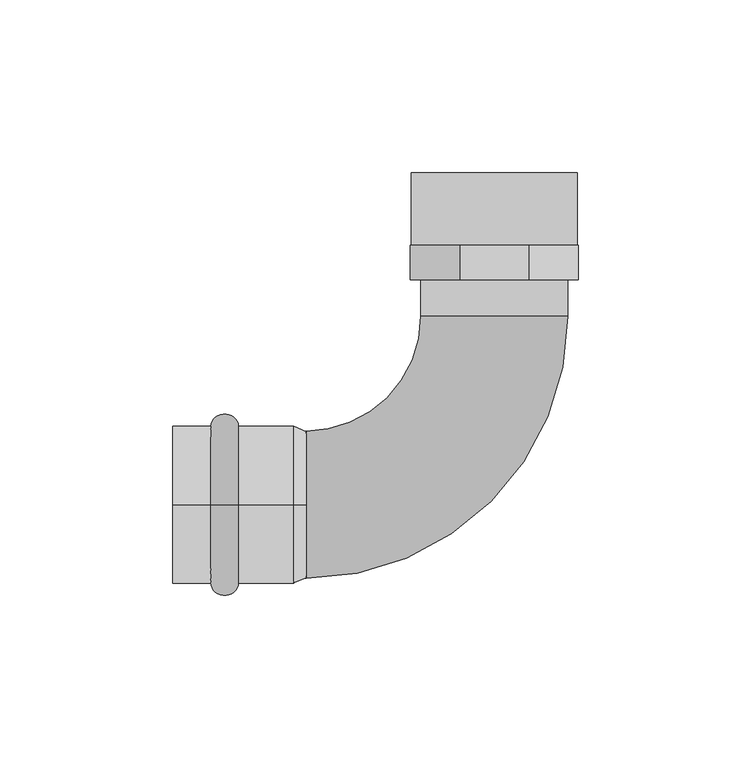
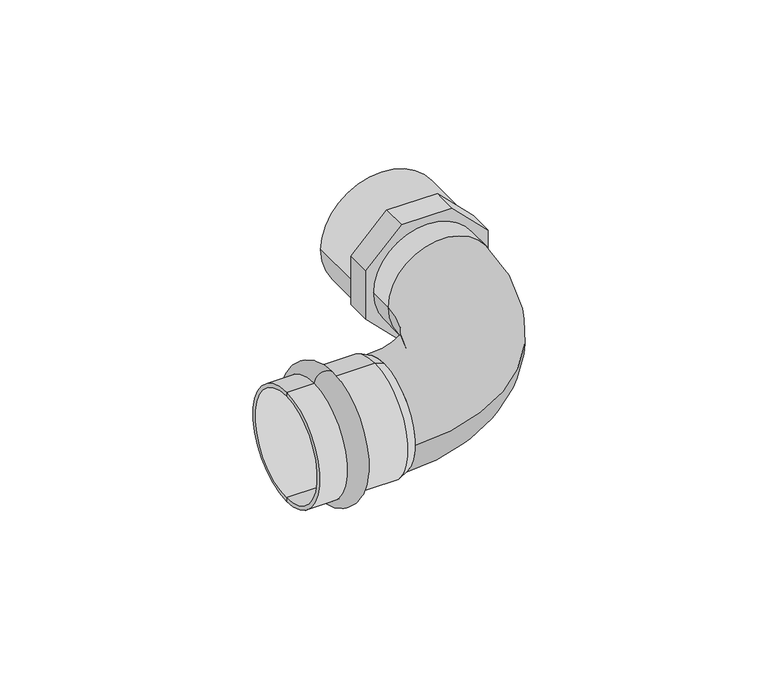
"""IFC4 building model written with IfcOpenShell, lengths in millimetres: pipe fitting geometry."""

from ifc_helpers import new_model, si_unit, point, frame, frame_2d, origin, place, context, project, spatial, polyline, circle_curve, ellipse_curve, trimmed, segment, composite_curve, outline, extrude, source, transform, mapped, element, save
from ifc_brep_helpers import plane_surface, cylinder_surface, revolved_surface, advanced_brep


def pipe_fitting_0c11c471(model_context):
    return source(origin(), model_context, "Body", "SolidModel", [
        advanced_brep(
        [(-24.0, 0.0, 22.75), (-24.0, 0.0, -22.75), (-16.0, 0.0, -22.75), (-16.0, 0.0, 22.75)],
        [
            (0, 1, circle_curve(frame((-24.0, 0.0, 0.0), z_axis=(-1.0, 0.0, 0.0), x_axis=(0.0, 0.0, -1.0)), 22.75)),
            (1, 2),
            (2, 3, circle_curve(frame((-16.0, 0.0, 0.0), z_axis=(1.0, 0.0, 0.0), x_axis=(0.0, 0.0, -1.0)), 22.75)),
            (3, 0),
            (1, 0, circle_curve(frame((-24.0, 0.0, 0.0), z_axis=(-1.0, 0.0, 0.0), x_axis=(0.0, 0.0, -1.0)), 22.75)),
            (3, 2, circle_curve(frame((-16.0, 0.0, 0.0), z_axis=(1.0, 0.0, 0.0), x_axis=(0.0, 0.0, -1.0)), 22.75)),
            (2, 1, ellipse_curve(frame((-20.0, 0.0, -22.75), z_axis=(0.0, 1.0, 0.0), x_axis=(-1.0, 0.0, 0.0)), 4.0, 3.6)),
            (0, 3, ellipse_curve(frame((-20.0, 0.0, 22.75), z_axis=(0.0, 1.0, 0.0), x_axis=(-1.0, 0.0, 0.0)), 4.0, 3.6)),
        ],
        [
            revolved_surface(polyline([(-16.0, 0.0, -22.75), (-24.0, 0.0, -22.75)]), (4.0, 0.0, 0.0), (1.0, 0.0, 0.0)),
            revolved_surface(trimmed(ellipse_curve(frame((-20.0, 0.0, -22.75), z_axis=(0.0, -1.0, 0.0), x_axis=(-1.0, 0.0, 0.0)), 4.0, 3.6), [point((-24.0, 0.0, -22.75))], [point((-16.0, 0.0, -22.75))], True, "CARTESIAN"), (4.0, 0.0, 0.0), (1.0, 0.0, 0.0)),
        ],
        [
            (0, [[1, 2, 3, 4]]),
            (0, [[5, -4, 6, -2]]),
            (1, [[-3, 7, -1, 8]]),
            (1, [[-6, -8, -5, -7]]),
        ],
    ),
        advanced_brep(
        [(3.5337785, 0.0, 21.25), (3.5337785, 0.0, -21.25), (0.0, 0.0, -22.75), (0.0, 0.0, 22.75), (-35.0, 0.0, 21.25), (-35.0, 0.0, -21.25), (-35.0, 0.0, 22.75), (-35.0, 0.0, -22.75)],
        [
            (0, 1, circle_curve(frame((3.5337785, 0.0, 0.0), z_axis=(-1.0, 0.0, 0.0), x_axis=(0.0, 0.0, -1.0)), 21.25)),
            (1, 2),
            (2, 3, circle_curve(frame((0.0, 0.0, 0.0), z_axis=(1.0, 0.0, 0.0), x_axis=(0.0, 0.0, -1.0)), 22.75)),
            (3, 0),
            (1, 0, circle_curve(frame((3.5337785, 0.0, 0.0), z_axis=(-1.0, 0.0, 0.0), x_axis=(0.0, 0.0, -1.0)), 21.25)),
            (3, 2, circle_curve(frame((0.0, 0.0, 0.0), z_axis=(1.0, 0.0, 0.0), x_axis=(0.0, 0.0, -1.0)), 22.75)),
            (4, 5, circle_curve(frame((-35.0, 0.0, 0.0), z_axis=(-1.0, 0.0, 0.0), x_axis=(0.0, 0.0, -1.0)), 21.25)),
            (5, 1),
            (0, 4),
            (5, 4, circle_curve(frame((-35.0, 0.0, 0.0), z_axis=(-1.0, 0.0, 0.0), x_axis=(0.0, 0.0, -1.0)), 21.25)),
            (6, 7, circle_curve(frame((-35.0, 0.0, 0.0), z_axis=(-1.0, 0.0, 0.0), x_axis=(0.0, 0.0, -1.0)), 22.75)),
            (7, 5),
            (4, 6),
            (7, 6, circle_curve(frame((-35.0, 0.0, 0.0), z_axis=(-1.0, 0.0, 0.0), x_axis=(0.0, 0.0, -1.0)), 22.75)),
            (2, 7),
            (6, 3),
        ],
        [
            revolved_surface(polyline([(0.0, 0.0, -22.75), (3.5337785, 0.0, -21.25)]), (4.0, 0.0, 0.0), (1.0, 0.0, 0.0)),
            revolved_surface(polyline([(3.5337785, 0.0, -21.25), (-35.0, 0.0, -21.25)]), (4.0, 0.0, 0.0), (1.0, 0.0, 0.0)),
            plane_surface(frame((-35.0, 0.0, 0.0), z_axis=(-1.0, 0.0, 0.0), x_axis=(0.0, 0.0, -1.0))),
            cylinder_surface(frame((4.0, 0.0, 0.0), z_axis=(1.0, 0.0, 0.0), x_axis=(0.0, 0.0, -1.0)), 22.75),
        ],
        [
            (0, [[1, 2, 3, 4]]),
            (0, [[5, -4, 6, -2]]),
            (1, [[7, 8, -1, 9]]),
            (1, [[10, -9, -5, -8]]),
            (2, [[11, 12, -7, 13]]),
            (2, [[14, -13, -10, -12]]),
            (3, [[-3, 15, -11, 16]]),
            (3, [[-6, -16, -14, -15]]),
        ],
    ),
        extrude(outline(polyline([(10.0446789, 82.25), (24.25, 68.0446789), (24.25, 47.9553211), (10.0446789, 33.75), (-10.0446789, 33.75), (-24.25, 47.9553211), (-24.25, 68.0446789), (-10.0446789, 82.25), (10.0446789, 82.25)]), holes=[polyline([(-16.25, 51.2690296), (-6.7309704, 41.75), (6.7309704, 41.75), (16.25, 51.2690296), (16.25, 64.7309704), (6.7309704, 74.25), (-6.7309704, 74.25), (-16.25, 64.7309704), (-16.25, 51.2690296)])]), frame((0.0, 65.0, 0.0), z_axis=(0.0, 1.0, 0.0), x_axis=(0.0, 0.0, 1.0)), (0.0, 0.0, 1.0), 10.0),
        extrude(outline(composite_curve([segment(trimmed(circle_curve(frame_2d((0.0, 58.0)), 24.0), [point((0.0, 34.0))], [point((0.0, 82.0))], False, "CARTESIAN"), True, "CONTINUOUS"), segment(trimmed(circle_curve(frame_2d((0.0, 58.0)), 24.0), [point((0.0, 82.0))], [point((0.0, 34.0))], False, "CARTESIAN"), True, "CONTINUOUS")], self_intersect=False)), frame((0.0, 75.0, 0.0), z_axis=(0.0, 1.0, 0.0), x_axis=(0.0, 0.0, 1.0)), (0.0, 0.0, 1.0), 21.0),
        advanced_brep(
        [(0.0, -21.25, 0.0), (0.0, 21.25, 0.0), (3.5337785, -21.25, 0.0), (3.5337785, 21.25, 0.0), (36.75, 54.4662215, 0.0), (79.25, 54.4662215, 0.0), (79.25, 65.0, 0.0), (36.75, 65.0, 0.0)],
        [
            (0, 1, circle_curve(frame((0.0, 0.0, 0.0), z_axis=(-1.0, 0.0, 0.0), x_axis=(0.0, 1.0, 0.0)), 21.25)),
            (1, 0, circle_curve(frame((0.0, 0.0, 0.0), z_axis=(-1.0, 0.0, 0.0), x_axis=(0.0, 1.0, 0.0)), 21.25)),
            (0, 2),
            (2, 3, circle_curve(frame((3.5337785, 0.0, 0.0), z_axis=(-1.0, 0.0, 0.0), x_axis=(0.0, 1.0, 0.0)), 21.25)),
            (3, 1),
            (3, 2, circle_curve(frame((3.5337785, 0.0, 0.0), z_axis=(-1.0, 0.0, 0.0), x_axis=(0.0, 1.0, 0.0)), 21.25)),
            (4, 3, circle_curve(frame((3.5337785, 54.4662215, 0.0), z_axis=(0.0, 0.0, -1.0), x_axis=(0.0, -1.0, 0.0)), 33.2162215)),
            (2, 5, circle_curve(frame((3.5337785, 54.4662215, 0.0), z_axis=(0.0, 0.0, 1.0), x_axis=(0.0, -1.0, 0.0)), 75.7162215)),
            (5, 4, circle_curve(frame((58.0, 54.4662215, 0.0), z_axis=(0.0, -1.0, 0.0), x_axis=(-1.0, 0.0, 0.0)), 21.25)),
            (4, 5, circle_curve(frame((58.0, 54.4662215, 0.0), z_axis=(0.0, -1.0, 0.0), x_axis=(-1.0, 0.0, 0.0)), 21.25)),
            (6, 7, circle_curve(frame((58.0, 65.0, 0.0), z_axis=(0.0, 1.0, 0.0), x_axis=(-1.0, 0.0, 0.0)), 21.25)),
            (7, 6, circle_curve(frame((58.0, 65.0, 0.0), z_axis=(0.0, 1.0, 0.0), x_axis=(-1.0, 0.0, 0.0)), 21.25)),
            (5, 6),
            (7, 4),
        ],
        [
            plane_surface(frame((0.0, 0.0, 0.0), z_axis=(-1.0, 0.0, 0.0), x_axis=(0.0, 0.0, 1.0))),
            cylinder_surface(frame((0.0, 0.0, 0.0), z_axis=(-1.0, 0.0, 0.0), x_axis=(0.0, 1.0, 0.0)), 21.25),
            revolved_surface(trimmed(ellipse_curve(frame((3.5337785, 0.0, 0.0), z_axis=(-1.0, 0.0, 0.0), x_axis=(0.0, 1.0, 0.0)), 21.25, 21.25), [point((3.5337785, -21.25, 0.0))], [point((3.5337785, 21.25, 0.0))], True, "CARTESIAN"), (3.5337785, 54.4662215, 0.0), (0.0, 0.0, 1.0)),
            revolved_surface(trimmed(ellipse_curve(frame((3.5337785, 0.0, 0.0), z_axis=(-1.0, 0.0, 0.0), x_axis=(0.0, 1.0, 0.0)), 21.25, 21.25), [point((3.5337785, 21.25, 0.0))], [point((3.5337785, -21.25, 0.0))], True, "CARTESIAN"), (3.5337785, 54.4662215, 0.0), (0.0, 0.0, 1.0)),
            plane_surface(frame((58.0, 65.0, 0.0), z_axis=(0.0, 1.0, 0.0), x_axis=(0.0, 0.0, 1.0))),
            cylinder_surface(frame((58.0, 54.4662215, 0.0), z_axis=(0.0, -1.0, 0.0), x_axis=(-1.0, 0.0, 0.0)), 21.25),
        ],
        [
            (0, [[1, 2]]),
            (1, [[-1, 3, 4, 5]]),
            (1, [[-2, -5, 6, -3]]),
            (2, [[7, -4, 8, 9]]),
            (3, [[-8, -6, -7, 10]]),
            (4, [[11, 12]]),
            (5, [[-9, 13, -12, 14]]),
            (5, [[-10, -14, -11, -13]]),
        ],
    ),
    ])


if __name__ == "__main__":
    model = new_model("IFC4")
    model_context = context("Model", 3, world=origin())
    ifc_project = project(units=[si_unit("LENGTHUNIT", "METRE", prefix="MILLI")], contexts=[model_context])
    site = spatial("IfcSite", under=ifc_project)
    building = spatial("IfcBuilding", under=site)
    placement = place(None, origin())
    pipe_fitting_shape = pipe_fitting_0c11c471(model_context)
    element("IfcPipeFitting", 1, ObjectType="РЕХАУ_Пресс Отвод НР : 42 x R 1 1/2\"", at=placement, inside=building, context=model_context, shape_type="MappedRepresentation", body=[
        mapped(pipe_fitting_shape, transform((0.0, 0.0, 0.0), x_axis=(1.0, 0.0, 0.0), y_axis=(0.0, 1.0, 0.0), z_axis=(0.0, 0.0, 1.0))),
    ])
    save(model, "model.ifc")
